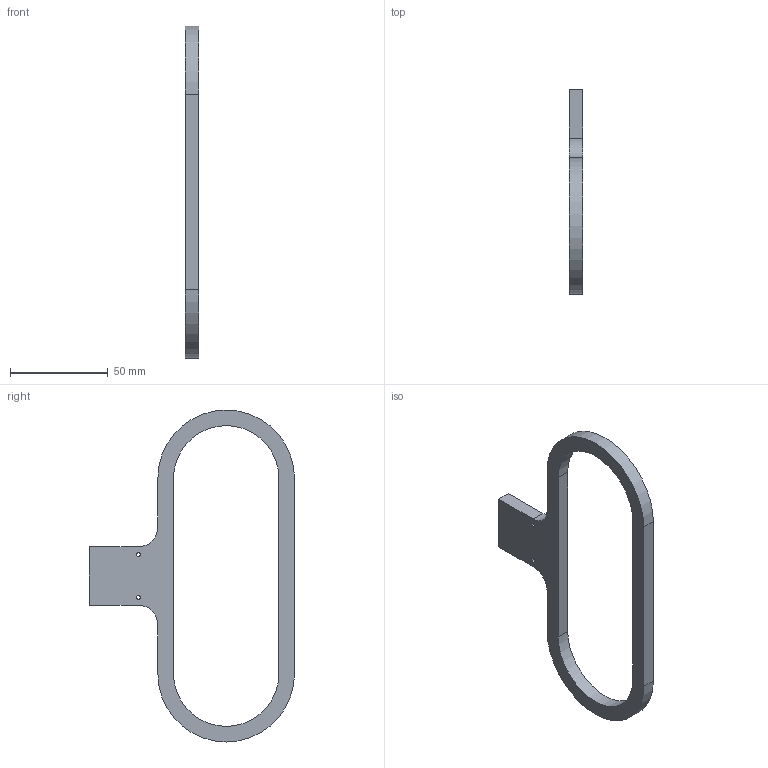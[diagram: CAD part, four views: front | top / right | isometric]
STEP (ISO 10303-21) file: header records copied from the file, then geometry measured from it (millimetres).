
FILE_DESCRIPTION(/* description */ (''),/* implementation_level */ '2;1');
FILE_NAME(/* name */ 'kolko_3_3.step',/* time_stamp */ '2026-04-10T14:35:06+02:00',/* author */ (''),/* organization */ (''),/* preprocessor_version */ 'ST-DEVELOPER v20.1',/* originating_system */ 'Autodesk Translation Framework v14.24.0.0',/* authorisation */ '');
FILE_SCHEMA (('AUTOMOTIVE_DESIGN { 1 0 10303 214 3 1 1 }'));
Length unit declared in the file: millimetre
Products named in the file (1): 2026-04-10-12-34-01-562
Bounding box: 7 x 105 x 170 mm (x, y, z)
Volume: 28922.4 mm3; surface area: 14682.1 mm2
Topology: 1 solids, 1 shells, 22 faces, 60 edges, 40 vertices
Faces by surface type: plane 11, cylinder 10, torus 1
Full cylindrical faces by diameter (mm): 2 x2
Entity records: 740 total; most frequent: DIRECTION 128, CARTESIAN_POINT 123, ORIENTED_EDGE 120, EDGE_CURVE 60, AXIS2_PLACEMENT_3D 45, VERTEX_POINT 40, LINE 38, VECTOR 38
